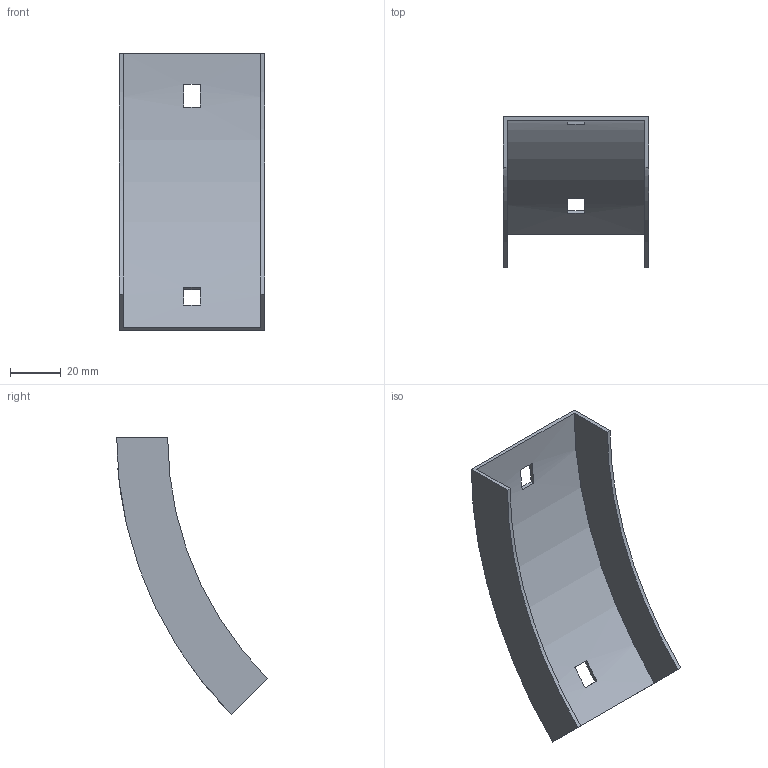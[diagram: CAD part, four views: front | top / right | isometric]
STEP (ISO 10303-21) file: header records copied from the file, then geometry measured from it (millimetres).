
FILE_DESCRIPTION (( 'STEP AP214' ), '1' );
FILE_NAME ('34N1B050.step', '2025-02-21T09:14:40', ( '' ), ( '' ), 'SwSTEP 2.0', 'SolidWorks 2023', '' );
FILE_SCHEMA (( 'AUTOMOTIVE_DESIGN' ));
Length unit declared in the file: millimetre
Products named in the file (1): 34N1B050
Bounding box: 57 x 59.1 x 108.54 mm (x, y, z)
Volume: 16303.3 mm3; surface area: 22429.6 mm2
Topology: 1 solids, 1 shells, 18 faces, 48 edges, 32 vertices
Faces by surface type: plane 14, cylinder 4
Entity records: 599 total; most frequent: DIRECTION 102, CARTESIAN_POINT 99, ORIENTED_EDGE 96, EDGE_CURVE 48, AXIS2_PLACEMENT_3D 35, LINE 32, VECTOR 32, VERTEX_POINT 32
